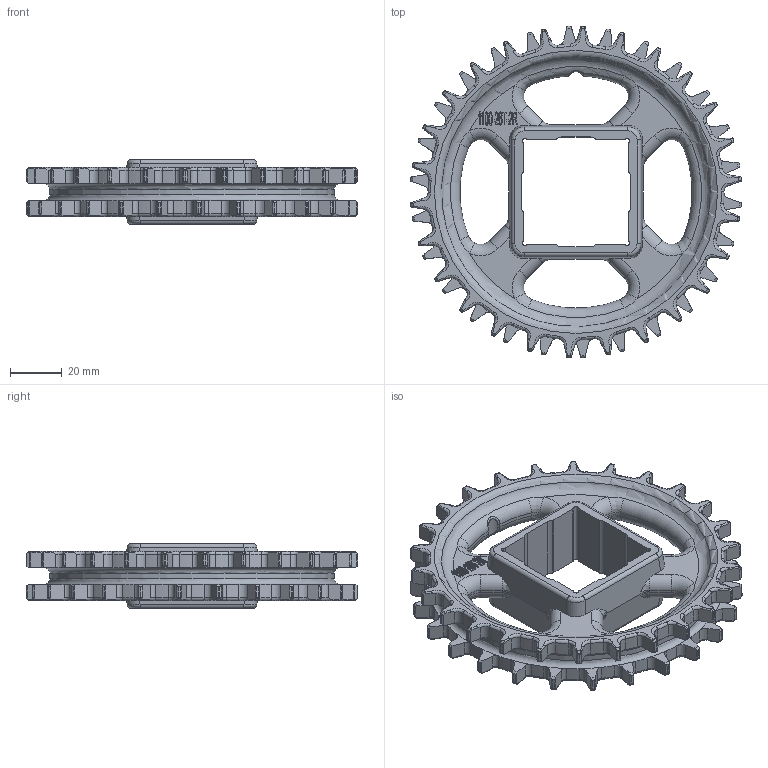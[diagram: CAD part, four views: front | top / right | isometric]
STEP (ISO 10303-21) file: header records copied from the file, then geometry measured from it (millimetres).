
FILE_DESCRIPTION(/* description */ (''),/* implementation_level */ '2;1');
FILE_NAME(/* name */ 'HS-1100-N-26T-2R.stp',/* time_stamp */ '2022-04-14T08:05:17+08:00',/* author */ (''),/* organization */ (''),/* preprocessor_version */ 'ST-DEVELOPER v15',/* originating_system */ 'SIEMENS PLM Software NX 8.5',/* authorisation */ '');
FILE_SCHEMA (('AP203_CONFIGURATION_CONTROLLED_3D_DESIGN_OF_MECHANICAL_PARTS_AND_ASSEMBLIES_MIM_LF { 1 0 10303 403 2 1 2}'));
Length unit declared in the file: millimetre
Products named in the file (1): Admi24281120ayqy
Bounding box: 128 x 128.27 x 25 mm (x, y, z)
Volume: 91529.1 mm3; surface area: 35712.1 mm2
Topology: 1 solids, 1 shells, 1379 faces, 3492 edges, 2123 vertices
Faces by surface type: cylinder 509, plane 251, torus 238, bspline 146, sphere 104, cone 104, extrusion 27
Full cylindrical faces by diameter (mm): 110 x1
Entity records: 48900 total; most frequent: CARTESIAN_POINT 16989, ORIENTED_EDGE 6960, DIRECTION 6404, EDGE_CURVE 3480, AXIS2_PLACEMENT_3D 2672, VERTEX_POINT 2118, EDGE_LOOP 1404, CIRCLE 1401
